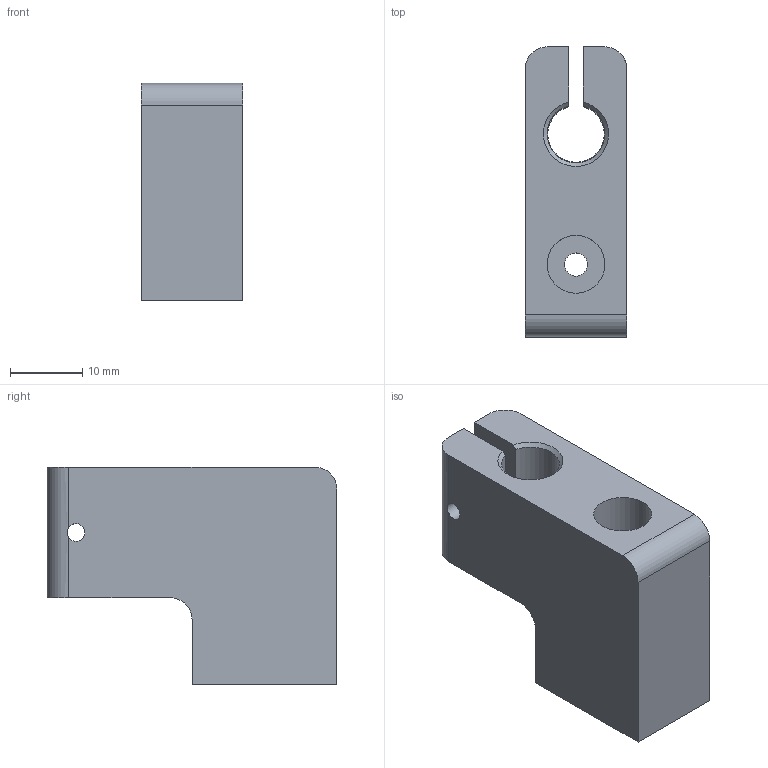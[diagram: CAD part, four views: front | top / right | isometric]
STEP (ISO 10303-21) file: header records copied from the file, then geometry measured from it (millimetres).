
FILE_DESCRIPTION(/* description */ ('Clamping Dial Gage'),/* implementation_level */ '2;1');
FILE_NAME(/* name */ 'Z:\Werkstatt Server\Projekte\Atlas\Entwicklung u. Konstruktion\Konstruktion\CAD Daten\ITkPixToolV2.0\Baremodule Jig\ITPTv2.01.00.05.stp',/* time_stamp */ '2021-08-06T14:37:53+02:00',/* author */ ('Tim Kanngießer'),/* organization */ (''),/* preprocessor_version */ 'ST-DEVELOPER v18.1',/* originating_system */ 'Autodesk Inventor 2022',/* authorisation */ '');
FILE_SCHEMA (('AUTOMOTIVE_DESIGN { 1 0 10303 214 3 1 1 }'));
Length unit declared in the file: millimetre
Products named in the file (1): ITPTv2.01.00.05
Bounding box: 14 x 40 x 30 mm (x, y, z)
Volume: 10862.9 mm3; surface area: 5135.3 mm2
Topology: 1 solids, 1 shells, 30 faces, 82 edges, 54 vertices
Faces by surface type: plane 14, cylinder 13, cone 3
Full cylindrical faces by diameter (mm): 2.459 x1, 3 x2, 3.2 x1, 3.4 x1, 6 x1, 8 x1
Entity records: 1046 total; most frequent: CARTESIAN_POINT 200, DIRECTION 167, ORIENTED_EDGE 160, EDGE_CURVE 80, AXIS2_PLACEMENT_3D 60, VERTEX_POINT 54, LINE 47, VECTOR 47
